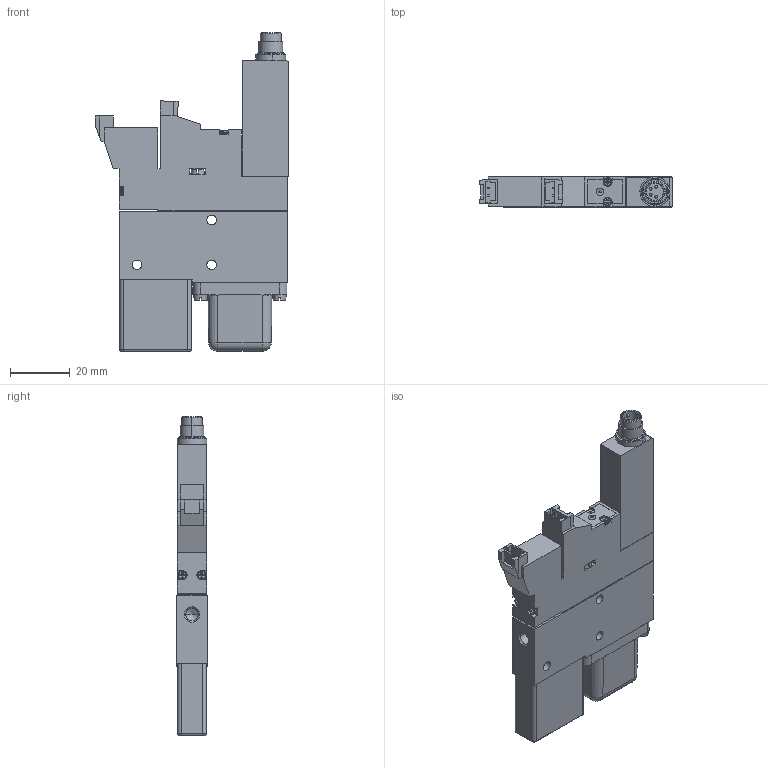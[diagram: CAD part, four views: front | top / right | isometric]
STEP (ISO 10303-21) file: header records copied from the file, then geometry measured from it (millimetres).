
FILE_DESCRIPTION(('STEP AP214'),'1');
FILE_NAME('10_02_02_02503.stp','2020-10-27T21:38:32',('TraceParts'),('TraceParts S.A.'),'Spatial InterOp 3D',' ',' ');
FILE_SCHEMA(('AUTOMOTIVE_DESIGN { 1 0 10303 214 1 1 1 1 }'));
Length unit declared in the file: millimetre
Products named in the file (1): 10_02_02_02503
Bounding box: 64.85 x 10.2 x 106.8 mm (x, y, z)
Volume: 43529.3 mm3; surface area: 16320.3 mm2
Topology: 1 solids, 4 shells, 462 faces, 1182 edges, 747 vertices
Faces by surface type: plane 277, cylinder 103, torus 40, cone 38, sphere 4
Entity records: 17716 total; most frequent: CARTESIAN_POINT 2572, DIRECTION 2432, ORIENTED_EDGE 2340, EDGE_CURVE 1170, AXIS2_PLACEMENT_3D 831, LINE 770, VECTOR 770, VERTEX_POINT 747
